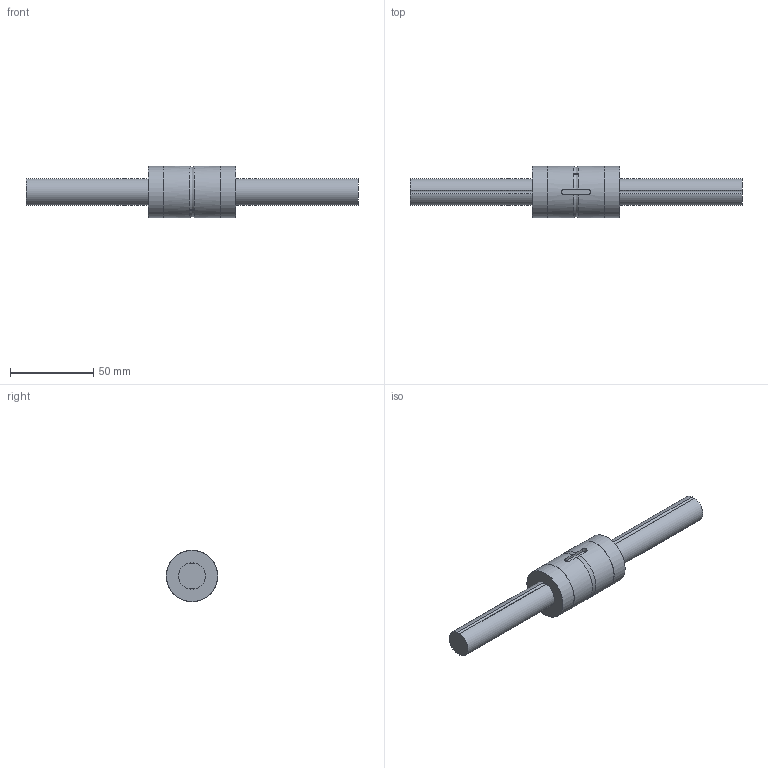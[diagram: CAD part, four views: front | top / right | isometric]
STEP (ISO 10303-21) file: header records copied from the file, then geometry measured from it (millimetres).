
FILE_DESCRIPTION((''),'2;1');
FILE_NAME('C:\Documents and Settings\土屋\My Documents\土屋移動用フォルダ\製品 (図面)\カタログ用3D\ボールスプライン\BSP\BSP16.stp','2015-02-23T13:27:30',('y'),(''),'Autodesk Inventor 11','Autodesk Inventor 11','');
FILE_SCHEMA(('AUTOMOTIVE_DESIGN { 1 0 10303 214 1 1 1 1 }'));
Length unit declared in the file: millimetre
Products named in the file (3): BSP16; BSP16軸; BSP16ナット
Assembly tree (2 placements, depth 2):
  BSP16
    BSP16軸
    BSP16ナット
Bounding box: 200 x 31 x 31 mm (x, y, z)
Volume: 68859.4 mm3; surface area: 19674.4 mm2
Topology: 2 solids, 2 shells, 28 faces, 62 edges, 42 vertices
Faces by surface type: cylinder 15, plane 10, bspline 3
Full cylindrical faces by diameter (mm): 1.5 x1, 30.8 x2, 31 x2
Entity records: 1077 total; most frequent: CARTESIAN_POINT 409, DIRECTION 134, ORIENTED_EDGE 108, AXIS2_PLACEMENT_3D 58, EDGE_CURVE 54, VERTEX_POINT 40, EDGE_LOOP 40, CIRCLE 28
